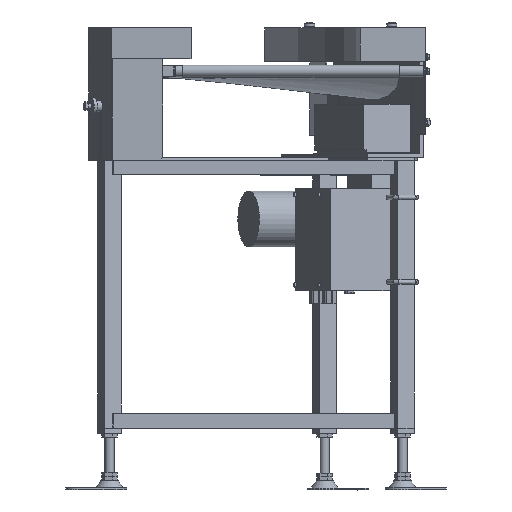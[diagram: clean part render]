
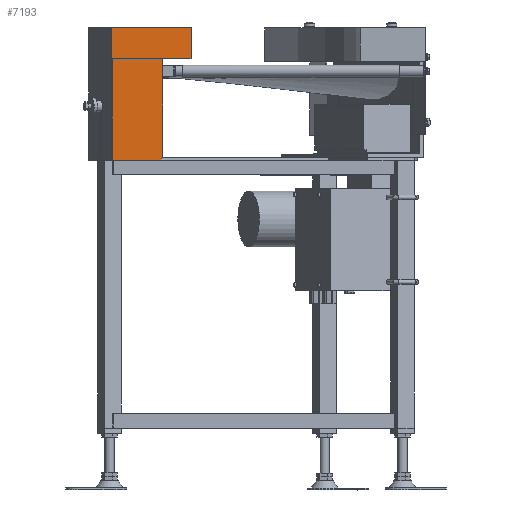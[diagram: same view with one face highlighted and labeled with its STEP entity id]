
A CAD part, top view. The second image highlights one B-rep face of the part: STEP entity #7193.
In plain terms, the highlighted planar face has unit normal (0, 0, 1).
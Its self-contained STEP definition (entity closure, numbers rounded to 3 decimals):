
#716 = CARTESIAN_POINT ( 'NONE',  ( 225., -167., 0. ) ) ;
#3061 = AXIS2_PLACEMENT_3D ( 'NONE', #3538, #39369, #36092 ) ;
#3538 = CARTESIAN_POINT ( 'NONE',  ( 0., -167., 0. ) ) ;
#4100 = ORIENTED_EDGE ( 'NONE', *, *, #8052, .T. ) ;
#4966 = CARTESIAN_POINT ( 'NONE',  ( 280., 68., 0. ) ) ;
#6763 = VERTEX_POINT ( 'NONE', #38378 ) ;
#7079 = FACE_OUTER_BOUND ( 'NONE', #34398, .T. ) ;
#7193 = ADVANCED_FACE ( 'NONE', ( #7079 ), #35784, .T. ) ;
#8052 = EDGE_CURVE ( 'NONE', #6763, #44349, #30778, .T. ) ;
#8624 = VECTOR ( 'NONE', #14284, 1000. ) ;
#9811 = ORIENTED_EDGE ( 'NONE', *, *, #36523, .T. ) ;
#10040 = CARTESIAN_POINT ( 'NONE',  ( 140., -167., 0. ) ) ;
#11339 = EDGE_CURVE ( 'NONE', #26308, #6763, #15644, .T. ) ;
#12364 = LINE ( 'NONE', #21733, #45021 ) ;
#12730 = EDGE_CURVE ( 'NONE', #21182, #12897, #36489, .T. ) ;
#12897 = VERTEX_POINT ( 'NONE', #4966 ) ;
#14277 = LINE ( 'NONE', #14464, #20496 ) ;
#14284 = DIRECTION ( 'NONE',  ( 0.707, 0.707, 0. ) ) ;
#14464 = CARTESIAN_POINT ( 'NONE',  ( 0., 68., 0. ) ) ;
#15644 = LINE ( 'NONE', #10040, #24750 ) ;
#15954 = CARTESIAN_POINT ( 'NONE',  ( 140., 68., 0. ) ) ;
#16858 = CARTESIAN_POINT ( 'NONE',  ( 280., 13., 0. ) ) ;
#17316 = CARTESIAN_POINT ( 'NONE',  ( 112.5, -279.5, 0. ) ) ;
#18903 = VECTOR ( 'NONE', #36061, 1000. ) ;
#19000 = EDGE_CURVE ( 'NONE', #26308, #12897, #14277, .T. ) ;
#20496 = VECTOR ( 'NONE', #40180, 1000. ) ;
#21182 = VERTEX_POINT ( 'NONE', #16858 ) ;
#21425 = DIRECTION ( 'NONE',  ( 1., 0., 0. ) ) ;
#21733 = CARTESIAN_POINT ( 'NONE',  ( 230., 13., 0. ) ) ;
#24750 = VECTOR ( 'NONE', #31363, 1000. ) ;
#26308 = VERTEX_POINT ( 'NONE', #15954 ) ;
#29516 = LINE ( 'NONE', #31502, #37427 ) ;
#29854 = ORIENTED_EDGE ( 'NONE', *, *, #19000, .F. ) ;
#30065 = LINE ( 'NONE', #17316, #8624 ) ;
#30412 = CARTESIAN_POINT ( 'NONE',  ( 280., -167., 0. ) ) ;
#30778 = LINE ( 'NONE', #32400, #18903 ) ;
#31208 = VERTEX_POINT ( 'NONE', #44213 ) ;
#31363 = DIRECTION ( 'NONE',  ( 0., -1., 0. ) ) ;
#31425 = ORIENTED_EDGE ( 'NONE', *, *, #34936, .T. ) ;
#31502 = CARTESIAN_POINT ( 'NONE',  ( 230., -167., 0. ) ) ;
#32129 = DIRECTION ( 'NONE',  ( 0., 1., 0. ) ) ;
#32174 = ORIENTED_EDGE ( 'NONE', *, *, #11339, .T. ) ;
#32400 = CARTESIAN_POINT ( 'NONE',  ( 0., -167., 0. ) ) ;
#33176 = ORIENTED_EDGE ( 'NONE', *, *, #41518, .T. ) ;
#34398 = EDGE_LOOP ( 'NONE', ( #4100, #9811, #33176, #31425, #41104, #29854, #32174 ) ) ;
#34692 = VERTEX_POINT ( 'NONE', #42053 ) ;
#34936 = EDGE_CURVE ( 'NONE', #34692, #21182, #12364, .T. ) ;
#35784 = PLANE ( 'NONE',  #3061 ) ;
#36061 = DIRECTION ( 'NONE',  ( 1., 0., 0. ) ) ;
#36092 = DIRECTION ( 'NONE',  ( 1., 0., 0. ) ) ;
#36489 = LINE ( 'NONE', #30412, #44300 ) ;
#36523 = EDGE_CURVE ( 'NONE', #44349, #31208, #30065, .T. ) ;
#37427 = VECTOR ( 'NONE', #32129, 1000. ) ;
#38378 = CARTESIAN_POINT ( 'NONE',  ( 140., -167., 0. ) ) ;
#39369 = DIRECTION ( 'NONE',  ( 0., 0., 1. ) ) ;
#40180 = DIRECTION ( 'NONE',  ( 1., 0., 0. ) ) ;
#41104 = ORIENTED_EDGE ( 'NONE', *, *, #12730, .T. ) ;
#41518 = EDGE_CURVE ( 'NONE', #31208, #34692, #29516, .T. ) ;
#42053 = CARTESIAN_POINT ( 'NONE',  ( 230., 13., 0. ) ) ;
#44213 = CARTESIAN_POINT ( 'NONE',  ( 230., -162., 0. ) ) ;
#44300 = VECTOR ( 'NONE', #45026, 1000. ) ;
#44349 = VERTEX_POINT ( 'NONE', #716 ) ;
#45021 = VECTOR ( 'NONE', #21425, 1000. ) ;
#45026 = DIRECTION ( 'NONE',  ( 0., 1., 0. ) ) ;
